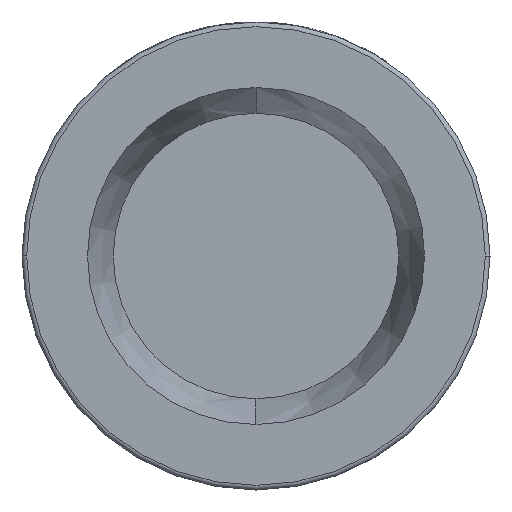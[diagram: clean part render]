
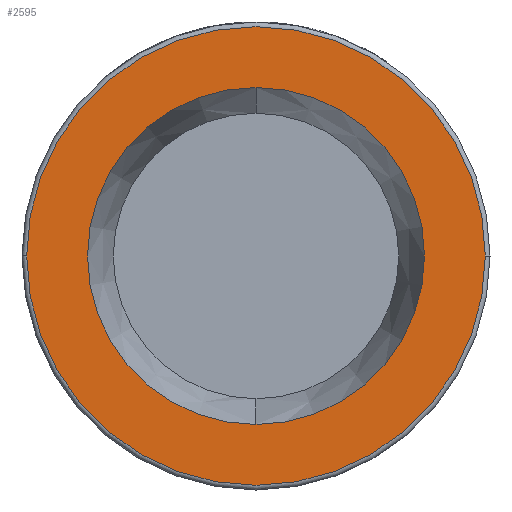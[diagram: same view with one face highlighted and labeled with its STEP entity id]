
A CAD part, front view. The second image highlights one B-rep face of the part: STEP entity #2595.
In plain terms, the highlighted planar face has unit normal (0, -1, 0).
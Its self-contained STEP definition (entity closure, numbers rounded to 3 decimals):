
#109 = FACE_BOUND ( 'NONE', #3826, .T. ) ;
#173 = CARTESIAN_POINT ( 'NONE',  ( 50., -32., 0. ) ) ;
#263 = CARTESIAN_POINT ( 'NONE',  ( 0., -32., -36. ) ) ;
#282 = ORIENTED_EDGE ( 'NONE', *, *, #2806, .F. ) ;
#464 = AXIS2_PLACEMENT_3D ( 'NONE', #173, #873, #1180 ) ;
#540 = CIRCLE ( 'NONE', #2020, 36. ) ;
#550 = VERTEX_POINT ( 'NONE', #3771 ) ;
#571 = DIRECTION ( 'NONE',  ( 1., 0., 0. ) ) ;
#873 = DIRECTION ( 'NONE',  ( 0., -1., 0. ) ) ;
#881 = DIRECTION ( 'NONE',  ( 0., -1., 0. ) ) ;
#904 = CARTESIAN_POINT ( 'NONE',  ( 0., -32., 0. ) ) ;
#988 = AXIS2_PLACEMENT_3D ( 'NONE', #1668, #4101, #571 ) ;
#1180 = DIRECTION ( 'NONE',  ( 1., 0., 0. ) ) ;
#1317 = DIRECTION ( 'NONE',  ( 0., -1., 0. ) ) ;
#1441 = CIRCLE ( 'NONE', #988, 49. ) ;
#1668 = CARTESIAN_POINT ( 'NONE',  ( 0., -32., 0. ) ) ;
#1794 = CARTESIAN_POINT ( 'NONE',  ( -49., -32., 0. ) ) ;
#1860 = DIRECTION ( 'NONE',  ( 1., 0., 0. ) ) ;
#2020 = AXIS2_PLACEMENT_3D ( 'NONE', #904, #881, #3742 ) ;
#2045 = VERTEX_POINT ( 'NONE', #263 ) ;
#2326 = CARTESIAN_POINT ( 'NONE',  ( 0., -32., 36. ) ) ;
#2373 = ORIENTED_EDGE ( 'NONE', *, *, #2681, .F. ) ;
#2409 = DIRECTION ( 'NONE',  ( 0., -1., 0. ) ) ;
#2446 = EDGE_LOOP ( 'NONE', ( #4031, #4571 ) ) ;
#2595 = ADVANCED_FACE ( 'NONE', ( #109, #4339 ), #3668, .T. ) ;
#2681 = EDGE_CURVE ( 'NONE', #3797, #2045, #3852, .T. ) ;
#2726 = CARTESIAN_POINT ( 'NONE',  ( 0., -32., 0. ) ) ;
#2753 = AXIS2_PLACEMENT_3D ( 'NONE', #4517, #1317, #3427 ) ;
#2806 = EDGE_CURVE ( 'NONE', #2045, #3797, #540, .T. ) ;
#2932 = EDGE_CURVE ( 'NONE', #3213, #550, #3054, .T. ) ;
#3054 = CIRCLE ( 'NONE', #4381, 49. ) ;
#3213 = VERTEX_POINT ( 'NONE', #1794 ) ;
#3427 = DIRECTION ( 'NONE',  ( 0., 0., -1. ) ) ;
#3668 = PLANE ( 'NONE',  #464 ) ;
#3692 = EDGE_CURVE ( 'NONE', #550, #3213, #1441, .T. ) ;
#3742 = DIRECTION ( 'NONE',  ( 0., 0., -1. ) ) ;
#3771 = CARTESIAN_POINT ( 'NONE',  ( 49., -32., 0. ) ) ;
#3797 = VERTEX_POINT ( 'NONE', #2326 ) ;
#3826 = EDGE_LOOP ( 'NONE', ( #282, #2373 ) ) ;
#3852 = CIRCLE ( 'NONE', #2753, 36. ) ;
#4031 = ORIENTED_EDGE ( 'NONE', *, *, #3692, .T. ) ;
#4101 = DIRECTION ( 'NONE',  ( 0., -1., 0. ) ) ;
#4339 = FACE_OUTER_BOUND ( 'NONE', #2446, .T. ) ;
#4381 = AXIS2_PLACEMENT_3D ( 'NONE', #2726, #2409, #1860 ) ;
#4517 = CARTESIAN_POINT ( 'NONE',  ( 0., -32., 0. ) ) ;
#4571 = ORIENTED_EDGE ( 'NONE', *, *, #2932, .T. ) ;
